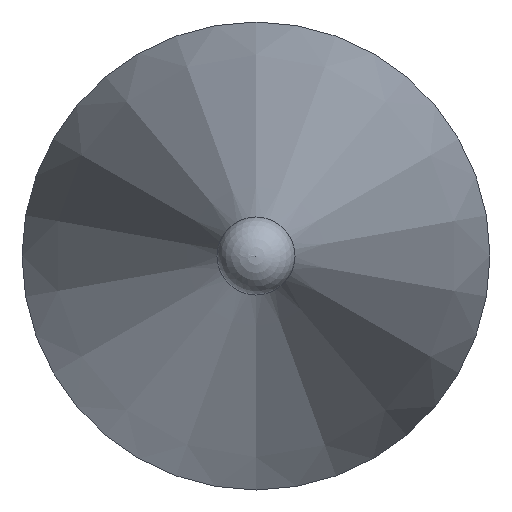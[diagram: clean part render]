
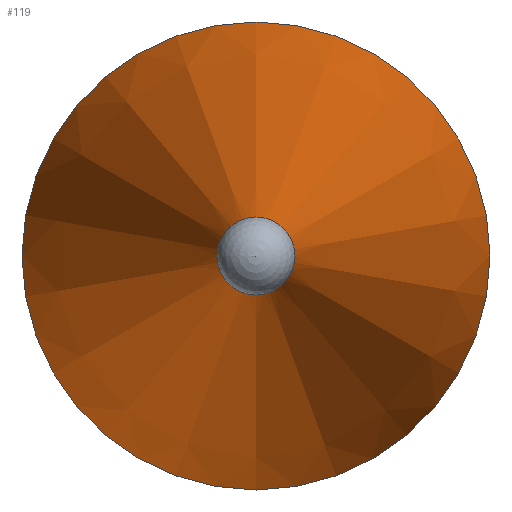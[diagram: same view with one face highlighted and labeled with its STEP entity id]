
A CAD part, left-side view. The second image highlights one B-rep face of the part: STEP entity #119.
In plain terms, the highlighted conical face has half-angle 12 degrees and reference radius 3 mm.
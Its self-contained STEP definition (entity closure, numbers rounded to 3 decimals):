
#93=CONICAL_SURFACE('',#191,3.,12.);
#106=FACE_BOUND('',#137,.T.);
#107=FACE_BOUND('',#138,.T.);
#119=ADVANCED_FACE('',(#106,#107),#93,.T.);
#137=EDGE_LOOP('',(#151));
#138=EDGE_LOOP('',(#152));
#151=ORIENTED_EDGE('',*,*,#168,.F.);
#152=ORIENTED_EDGE('',*,*,#169,.T.);
#161=VERTEX_POINT('',#244);
#162=VERTEX_POINT('',#247);
#168=EDGE_CURVE('',#161,#161,#175,.T.);
#169=EDGE_CURVE('',#162,#162,#176,.T.);
#175=CIRCLE('',#188,0.475);
#176=CIRCLE('',#190,3.);
#188=AXIS2_PLACEMENT_3D('',#243,#215,#216);
#190=AXIS2_PLACEMENT_3D('',#246,#219,#220);
#191=AXIS2_PLACEMENT_3D('',#248,#221,#222);
#215=DIRECTION('',(-1.,0.,0.));
#216=DIRECTION('',(0.,0.,1.));
#219=DIRECTION('',(-1.,0.,0.));
#220=DIRECTION('',(0.,0.,1.));
#221=DIRECTION('',(1.,0.,0.));
#222=DIRECTION('',(0.,0.,-1.));
#243=CARTESIAN_POINT('',(7864.34,6105.041,0.));
#244=CARTESIAN_POINT('',(7864.34,6105.041,0.475));
#246=CARTESIAN_POINT('',(7876.22,6105.041,0.));
#247=CARTESIAN_POINT('',(7876.22,6105.041,3.));
#248=CARTESIAN_POINT('',(7876.22,6105.041,0.));
